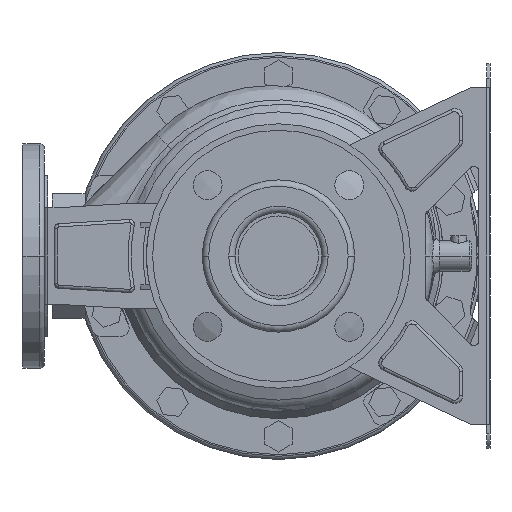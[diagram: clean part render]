
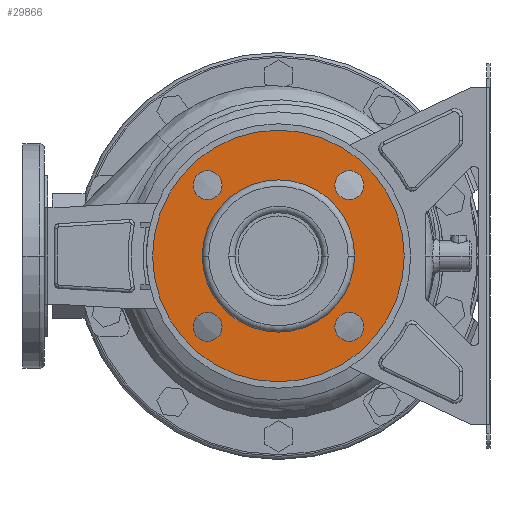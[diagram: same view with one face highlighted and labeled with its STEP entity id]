
A CAD part, left-side view. The second image highlights one B-rep face of the part: STEP entity #29866.
In plain terms, the highlighted planar face has unit normal (-1, 0, 0).
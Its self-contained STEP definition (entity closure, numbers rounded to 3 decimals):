
#29199=CARTESIAN_POINT('',(12.,0.,0.));
#29200=DIRECTION('',(-1.,0.,0.));
#29201=DIRECTION('',(0.,1.,0.));
#29202=AXIS2_PLACEMENT_3D('',#29199,#29200,#29201);
#29207=CARTESIAN_POINT('',(12.,0.,0.));
#29208=DIRECTION('',(1.,0.,0.));
#29209=DIRECTION('',(0.,1.,0.));
#29210=AXIS2_PLACEMENT_3D('',#29207,#29208,#29209);
#29215=CARTESIAN_POINT('',(12.,-44.194,44.194));
#29216=DIRECTION('',(1.,0.,0.));
#29217=DIRECTION('',(0.,1.,0.));
#29218=AXIS2_PLACEMENT_3D('',#29215,#29216,#29217);
#29223=CARTESIAN_POINT('',(12.,-44.194,44.194));
#29224=DIRECTION('',(1.,0.,0.));
#29225=DIRECTION('',(0.,-1.,0.));
#29226=AXIS2_PLACEMENT_3D('',#29223,#29224,#29225);
#29231=CARTESIAN_POINT('',(12.,-44.194,-44.194));
#29232=DIRECTION('',(1.,0.,0.));
#29233=DIRECTION('',(0.,0.,1.));
#29234=AXIS2_PLACEMENT_3D('',#29231,#29232,#29233);
#29239=CARTESIAN_POINT('',(12.,-44.194,-44.194));
#29240=DIRECTION('',(1.,0.,0.));
#29241=DIRECTION('',(0.,0.,-1.));
#29242=AXIS2_PLACEMENT_3D('',#29239,#29240,#29241);
#29247=CARTESIAN_POINT('',(12.,44.194,-44.194));
#29248=DIRECTION('',(1.,0.,0.));
#29249=DIRECTION('',(0.,-1.,0.));
#29250=AXIS2_PLACEMENT_3D('',#29247,#29248,#29249);
#29255=CARTESIAN_POINT('',(12.,44.194,-44.194));
#29256=DIRECTION('',(1.,0.,0.));
#29257=DIRECTION('',(0.,1.,0.));
#29258=AXIS2_PLACEMENT_3D('',#29255,#29256,#29257);
#29263=CARTESIAN_POINT('',(12.,44.194,44.194));
#29264=DIRECTION('',(1.,0.,0.));
#29265=DIRECTION('',(0.,0.,-1.));
#29266=AXIS2_PLACEMENT_3D('',#29263,#29264,#29265);
#29271=CARTESIAN_POINT('',(12.,44.194,44.194));
#29272=DIRECTION('',(1.,0.,0.));
#29273=DIRECTION('',(0.,0.,1.));
#29274=AXIS2_PLACEMENT_3D('',#29271,#29272,#29273);
#29279=CARTESIAN_POINT('',(12.,0.,0.));
#29280=DIRECTION('',(1.,0.,0.));
#29281=DIRECTION('',(0.,1.,0.));
#29282=AXIS2_PLACEMENT_3D('',#29279,#29280,#29281);
#29301=CARTESIAN_POINT('',(12.,0.,0.));
#29302=DIRECTION('',(-1.,0.,0.));
#29303=DIRECTION('',(0.,1.,0.));
#29304=AXIS2_PLACEMENT_3D('',#29301,#29302,#29303);
#29466=CARTESIAN_POINT('',(12.,78.5,0.));
#29468=VERTEX_POINT('',#29466);
#29469=CARTESIAN_POINT('',(12.,47.5,0.));
#29471=VERTEX_POINT('',#29469);
#29498=CARTESIAN_POINT('',(12.,-78.5,0.));
#29500=VERTEX_POINT('',#29498);
#29501=CARTESIAN_POINT('',(12.,-47.5,0.));
#29503=VERTEX_POINT('',#29501);
#29513=CARTESIAN_POINT('',(12.,-35.194,44.194));
#29514=CARTESIAN_POINT('',(12.,-53.194,44.194));
#29515=VERTEX_POINT('',#29513);
#29516=VERTEX_POINT('',#29514);
#29521=CARTESIAN_POINT('',(12.,-44.194,-35.194));
#29522=CARTESIAN_POINT('',(12.,-44.194,-53.194));
#29523=VERTEX_POINT('',#29521);
#29524=VERTEX_POINT('',#29522);
#29529=CARTESIAN_POINT('',(12.,35.194,-44.194));
#29530=CARTESIAN_POINT('',(12.,53.194,-44.194));
#29531=VERTEX_POINT('',#29529);
#29532=VERTEX_POINT('',#29530);
#29537=CARTESIAN_POINT('',(12.,44.194,35.194));
#29538=CARTESIAN_POINT('',(12.,44.194,53.194));
#29539=VERTEX_POINT('',#29537);
#29540=VERTEX_POINT('',#29538);
#29827=CARTESIAN_POINT('',(12.,0.,0.));
#29828=DIRECTION('',(1.,0.,0.));
#29829=DIRECTION('',(0.,-1.,0.));
#29830=AXIS2_PLACEMENT_3D('',#29827,#29828,#29829);
#29831=PLANE('',#29830);
#29832=ORIENTED_EDGE('',*,*,#29820,.F.);
#29833=ORIENTED_EDGE('',*,*,#29809,.T.);
#29834=EDGE_LOOP('',(#29832,#29833));
#29835=FACE_OUTER_BOUND('',#29834,.F.);
#29837=ORIENTED_EDGE('',*,*,#29836,.F.);
#29839=ORIENTED_EDGE('',*,*,#29838,.T.);
#29840=EDGE_LOOP('',(#29837,#29839));
#29841=FACE_BOUND('',#29840,.F.);
#29843=ORIENTED_EDGE('',*,*,#29842,.F.);
#29845=ORIENTED_EDGE('',*,*,#29844,.F.);
#29846=EDGE_LOOP('',(#29843,#29845));
#29847=FACE_BOUND('',#29846,.F.);
#29849=ORIENTED_EDGE('',*,*,#29848,.F.);
#29851=ORIENTED_EDGE('',*,*,#29850,.F.);
#29852=EDGE_LOOP('',(#29849,#29851));
#29853=FACE_BOUND('',#29852,.F.);
#29855=ORIENTED_EDGE('',*,*,#29854,.F.);
#29857=ORIENTED_EDGE('',*,*,#29856,.F.);
#29858=EDGE_LOOP('',(#29855,#29857));
#29859=FACE_BOUND('',#29858,.F.);
#29861=ORIENTED_EDGE('',*,*,#29860,.F.);
#29863=ORIENTED_EDGE('',*,*,#29862,.F.);
#29864=EDGE_LOOP('',(#29861,#29863));
#29865=FACE_BOUND('',#29864,.F.);
#29203=CIRCLE('',#29202,78.5);
#29211=CIRCLE('',#29210,78.5);
#29219=CIRCLE('',#29218,9.);
#29227=CIRCLE('',#29226,9.);
#29235=CIRCLE('',#29234,9.);
#29243=CIRCLE('',#29242,9.);
#29251=CIRCLE('',#29250,9.);
#29259=CIRCLE('',#29258,9.);
#29267=CIRCLE('',#29266,9.);
#29275=CIRCLE('',#29274,9.);
#29283=CIRCLE('',#29282,47.5);
#29305=CIRCLE('',#29304,47.5);
#29809=EDGE_CURVE('',#29468,#29500,#29211,.T.);
#29820=EDGE_CURVE('',#29468,#29500,#29203,.T.);
#29836=EDGE_CURVE('',#29471,#29503,#29283,.T.);
#29838=EDGE_CURVE('',#29471,#29503,#29305,.T.);
#29842=EDGE_CURVE('',#29515,#29516,#29219,.T.);
#29844=EDGE_CURVE('',#29516,#29515,#29227,.T.);
#29848=EDGE_CURVE('',#29523,#29524,#29235,.T.);
#29850=EDGE_CURVE('',#29524,#29523,#29243,.T.);
#29854=EDGE_CURVE('',#29531,#29532,#29251,.T.);
#29856=EDGE_CURVE('',#29532,#29531,#29259,.T.);
#29860=EDGE_CURVE('',#29539,#29540,#29267,.T.);
#29862=EDGE_CURVE('',#29540,#29539,#29275,.T.);
#29866=ADVANCED_FACE('',(#29835,#29841,#29847,#29853,#29859,#29865),#29831,.F.);
